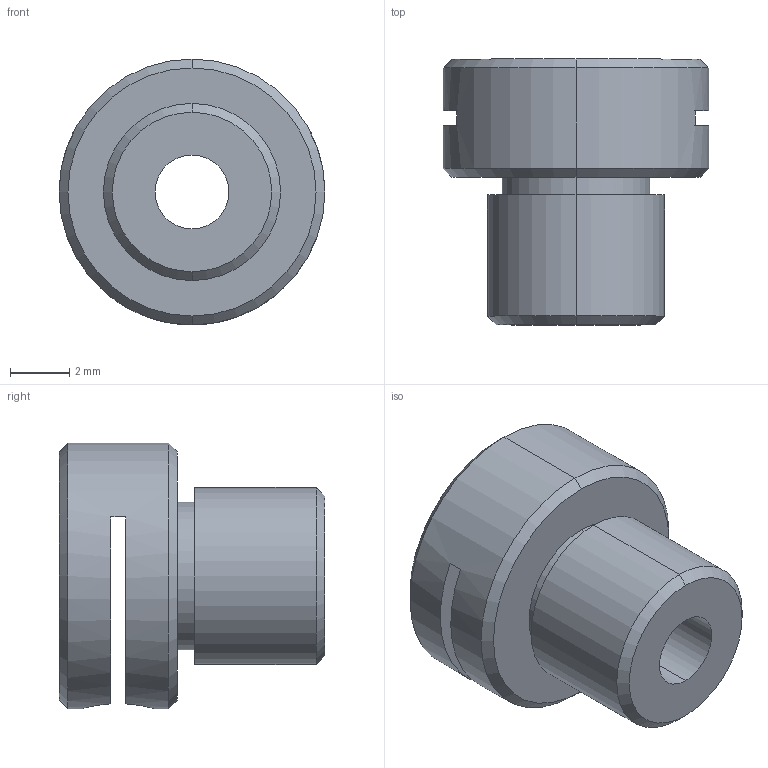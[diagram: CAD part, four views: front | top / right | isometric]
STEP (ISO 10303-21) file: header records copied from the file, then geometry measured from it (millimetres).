
FILE_DESCRIPTION (( 'STEP AP214' ), '1' );
FILE_NAME ('M4×0.25螺纹副.STEP', '2026-07-10T09:35:30', ( '' ), ( '' ), 'SwSTEP 2.0', 'SolidWorks 2024', '' );
FILE_SCHEMA (( 'AUTOMOTIVE_DESIGN' ));
Length unit declared in the file: millimetre
Products named in the file (1): M4×0.25螺纹副
Bounding box: 9 x 9 x 9 mm (x, y, z)
Volume: 311.2 mm3; surface area: 480.3 mm2
Topology: 1 solids, 1 shells, 27 faces, 63 edges, 40 vertices
Faces by surface type: cylinder 12, cone 8, plane 7
Entity records: 868 total; most frequent: CARTESIAN_POINT 199, DIRECTION 145, ORIENTED_EDGE 126, EDGE_CURVE 63, AXIS2_PLACEMENT_3D 60, VERTEX_POINT 40, EDGE_LOOP 33, CIRCLE 32
